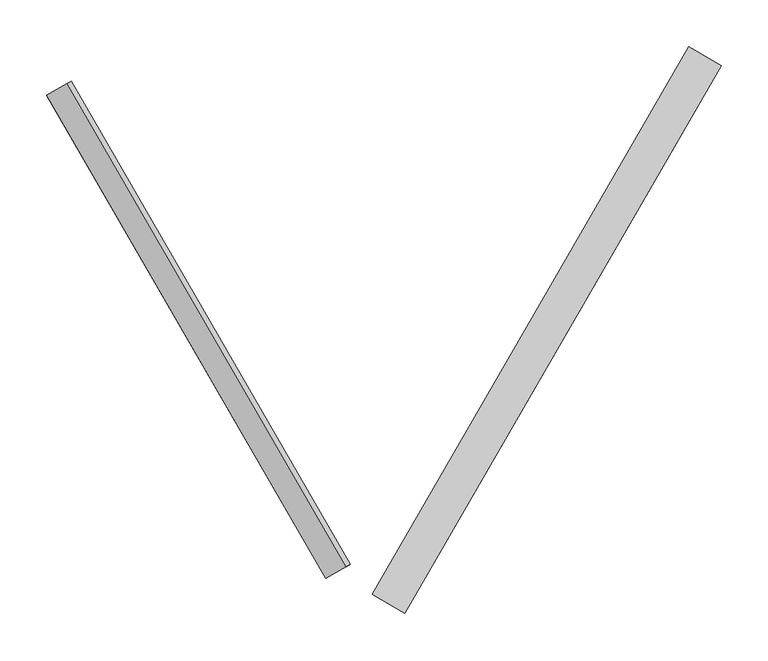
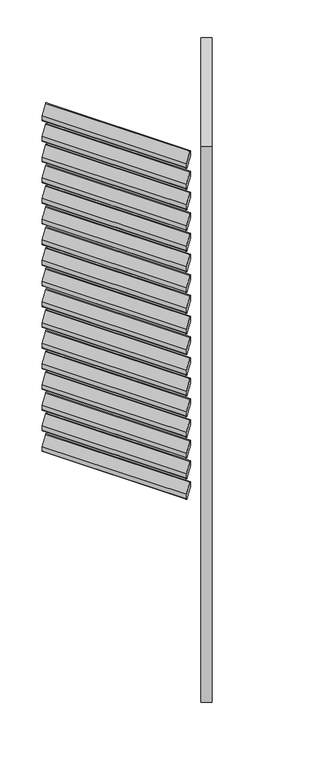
"""IFC4 building model written with IfcOpenShell, lengths in millimetres: proxy geometry, Renson_Amani_Loggia_Paro_Aluminium_Folding : Renson_Amani_Loggia_Paro_Aluminium_Folding."""

from ifc_helpers import new_model, si_unit, point, frame, frame_2d, origin, place, context, project, spatial, polyline, circle_curve, trimmed, segment, composite_curve, outline, extrude, source, transform, mapped, element, save


def generic_models_2752aaec(model_context):
    return source(origin(), model_context, "Body", "SweptSolid", [
        extrude(outline(composite_curve([segment(trimmed(circle_curve(frame_2d((44.0658831, -3.0)), 3.0), [point((44.0658831, 0.0))], [point((45.6998002, -5.5160117))], False, "CARTESIAN"), True, "CONTINUOUS"), segment(polyline([(45.6998002, -5.5160117), (30.3011505, -15.5160117)]), True, "CONTINUOUS"), segment(trimmed(circle_curve(frame_2d((28.6672334, -13.0)), 3.0), [point((30.3011505, -15.5160117))], [point((28.6672334, -16.0))], False, "CARTESIAN"), True, "CONTINUOUS"), segment(polyline([(28.6672334, -16.0), (-15.3986496, -16.0)]), True, "CONTINUOUS"), segment(trimmed(circle_curve(frame_2d((-15.3986496, -13.0)), 3.0), [point((-15.3986496, -16.0))], [point((-17.0325667, -10.4839883))], False, "CARTESIAN"), True, "CONTINUOUS"), segment(polyline([(-17.0325667, -10.4839883), (-0.8886405, 0.0), (44.0658831, 0.0)]), True, "CONTINUOUS")], self_intersect=False)), frame((1165.4546074, 37.7168064, 2397.3359298), z_axis=(0.5000000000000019, 0.8660254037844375, 0.0), x_axis=(-0.4716712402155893, 0.2723195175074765, 0.8386705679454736)), (0.0, 0.0, 1.0), 595.0),
        extrude(outline(composite_curve([segment(trimmed(circle_curve(frame_2d((44.0658831, -3.0)), 3.0), [point((44.0658831, 0.0))], [point((45.6998002, -5.5160117))], False, "CARTESIAN"), True, "CONTINUOUS"), segment(polyline([(45.6998002, -5.5160117), (30.3011505, -15.5160117)]), True, "CONTINUOUS"), segment(trimmed(circle_curve(frame_2d((28.6672334, -13.0)), 3.0), [point((30.3011505, -15.5160117))], [point((28.6672334, -16.0))], False, "CARTESIAN"), True, "CONTINUOUS"), segment(polyline([(28.6672334, -16.0), (-15.3986496, -16.0)]), True, "CONTINUOUS"), segment(trimmed(circle_curve(frame_2d((-15.3986496, -13.0)), 3.0), [point((-15.3986496, -16.0))], [point((-17.0325667, -10.4839883))], False, "CARTESIAN"), True, "CONTINUOUS"), segment(polyline([(-17.0325667, -10.4839883), (-0.8886405, 0.0), (44.0658831, 0.0)]), True, "CONTINUOUS")], self_intersect=False)), frame((1165.4546074, 37.7168064, 2307.3359298), z_axis=(0.5000000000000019, 0.8660254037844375, 0.0), x_axis=(-0.4716712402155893, 0.2723195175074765, 0.8386705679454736)), (0.0, 0.0, 1.0), 595.0),
        extrude(outline(composite_curve([segment(trimmed(circle_curve(frame_2d((44.0658831, -3.0)), 3.0), [point((44.0658831, 0.0))], [point((45.6998002, -5.5160117))], False, "CARTESIAN"), True, "CONTINUOUS"), segment(polyline([(45.6998002, -5.5160117), (30.3011505, -15.5160117)]), True, "CONTINUOUS"), segment(trimmed(circle_curve(frame_2d((28.6672334, -13.0)), 3.0), [point((30.3011505, -15.5160117))], [point((28.6672334, -16.0))], False, "CARTESIAN"), True, "CONTINUOUS"), segment(polyline([(28.6672334, -16.0), (-15.3986496, -16.0)]), True, "CONTINUOUS"), segment(trimmed(circle_curve(frame_2d((-15.3986496, -13.0)), 3.0), [point((-15.3986496, -16.0))], [point((-17.0325667, -10.4839883))], False, "CARTESIAN"), True, "CONTINUOUS"), segment(polyline([(-17.0325667, -10.4839883), (-0.8886405, 0.0), (44.0658831, 0.0)]), True, "CONTINUOUS")], self_intersect=False)), frame((1165.4546074, 37.7168064, 2217.3359298), z_axis=(0.5000000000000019, 0.8660254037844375, 0.0), x_axis=(-0.4716712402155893, 0.2723195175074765, 0.8386705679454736)), (0.0, 0.0, 1.0), 595.0),
        extrude(outline(composite_curve([segment(trimmed(circle_curve(frame_2d((44.0658831, -3.0)), 3.0), [point((44.0658831, 0.0))], [point((45.6998002, -5.5160117))], False, "CARTESIAN"), True, "CONTINUOUS"), segment(polyline([(45.6998002, -5.5160117), (30.3011505, -15.5160117)]), True, "CONTINUOUS"), segment(trimmed(circle_curve(frame_2d((28.6672334, -13.0)), 3.0), [point((30.3011505, -15.5160117))], [point((28.6672334, -16.0))], False, "CARTESIAN"), True, "CONTINUOUS"), segment(polyline([(28.6672334, -16.0), (-15.3986496, -16.0)]), True, "CONTINUOUS"), segment(trimmed(circle_curve(frame_2d((-15.3986496, -13.0)), 3.0), [point((-15.3986496, -16.0))], [point((-17.0325667, -10.4839883))], False, "CARTESIAN"), True, "CONTINUOUS"), segment(polyline([(-17.0325667, -10.4839883), (-0.8886405, 0.0), (44.0658831, 0.0)]), True, "CONTINUOUS")], self_intersect=False)), frame((1165.4546074, 37.7168064, 2127.3359298), z_axis=(0.5000000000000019, 0.8660254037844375, 0.0), x_axis=(-0.4716712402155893, 0.2723195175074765, 0.8386705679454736)), (0.0, 0.0, 1.0), 595.0),
        extrude(outline(composite_curve([segment(trimmed(circle_curve(frame_2d((44.0658831, -3.0)), 3.0), [point((44.0658831, 0.0))], [point((45.6998002, -5.5160117))], False, "CARTESIAN"), True, "CONTINUOUS"), segment(polyline([(45.6998002, -5.5160117), (30.3011505, -15.5160117)]), True, "CONTINUOUS"), segment(trimmed(circle_curve(frame_2d((28.6672334, -13.0)), 3.0), [point((30.3011505, -15.5160117))], [point((28.6672334, -16.0))], False, "CARTESIAN"), True, "CONTINUOUS"), segment(polyline([(28.6672334, -16.0), (-15.3986496, -16.0)]), True, "CONTINUOUS"), segment(trimmed(circle_curve(frame_2d((-15.3986496, -13.0)), 3.0), [point((-15.3986496, -16.0))], [point((-17.0325667, -10.4839883))], False, "CARTESIAN"), True, "CONTINUOUS"), segment(polyline([(-17.0325667, -10.4839883), (-0.8886405, 0.0), (44.0658831, 0.0)]), True, "CONTINUOUS")], self_intersect=False)), frame((1165.4546074, 37.7168064, 2037.3359298), z_axis=(0.5000000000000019, 0.8660254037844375, 0.0), x_axis=(-0.4716712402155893, 0.2723195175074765, 0.8386705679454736)), (0.0, 0.0, 1.0), 595.0),
        extrude(outline(composite_curve([segment(trimmed(circle_curve(frame_2d((44.0658831, -3.0)), 3.0), [point((44.0658831, 0.0))], [point((45.6998002, -5.5160117))], False, "CARTESIAN"), True, "CONTINUOUS"), segment(polyline([(45.6998002, -5.5160117), (30.3011505, -15.5160117)]), True, "CONTINUOUS"), segment(trimmed(circle_curve(frame_2d((28.6672334, -13.0)), 3.0), [point((30.3011505, -15.5160117))], [point((28.6672334, -16.0))], False, "CARTESIAN"), True, "CONTINUOUS"), segment(polyline([(28.6672334, -16.0), (-15.3986496, -16.0)]), True, "CONTINUOUS"), segment(trimmed(circle_curve(frame_2d((-15.3986496, -13.0)), 3.0), [point((-15.3986496, -16.0))], [point((-17.0325667, -10.4839883))], False, "CARTESIAN"), True, "CONTINUOUS"), segment(polyline([(-17.0325667, -10.4839883), (-0.8886405, 0.0), (44.0658831, 0.0)]), True, "CONTINUOUS")], self_intersect=False)), frame((1165.4546074, 37.7168064, 1947.3359298), z_axis=(0.5000000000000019, 0.8660254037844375, 0.0), x_axis=(-0.4716712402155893, 0.2723195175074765, 0.8386705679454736)), (0.0, 0.0, 1.0), 595.0),
        extrude(outline(composite_curve([segment(trimmed(circle_curve(frame_2d((44.0658831, -3.0)), 3.0), [point((44.0658831, 0.0))], [point((45.6998002, -5.5160117))], False, "CARTESIAN"), True, "CONTINUOUS"), segment(polyline([(45.6998002, -5.5160117), (30.3011505, -15.5160117)]), True, "CONTINUOUS"), segment(trimmed(circle_curve(frame_2d((28.6672334, -13.0)), 3.0), [point((30.3011505, -15.5160117))], [point((28.6672334, -16.0))], False, "CARTESIAN"), True, "CONTINUOUS"), segment(polyline([(28.6672334, -16.0), (-15.3986496, -16.0)]), True, "CONTINUOUS"), segment(trimmed(circle_curve(frame_2d((-15.3986496, -13.0)), 3.0), [point((-15.3986496, -16.0))], [point((-17.0325667, -10.4839883))], False, "CARTESIAN"), True, "CONTINUOUS"), segment(polyline([(-17.0325667, -10.4839883), (-0.8886405, 0.0), (44.0658831, 0.0)]), True, "CONTINUOUS")], self_intersect=False)), frame((1165.4546074, 37.7168064, 1857.3359298), z_axis=(0.5000000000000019, 0.8660254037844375, 0.0), x_axis=(-0.4716712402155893, 0.2723195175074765, 0.8386705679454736)), (0.0, 0.0, 1.0), 595.0),
        extrude(outline(composite_curve([segment(trimmed(circle_curve(frame_2d((44.0658831, -3.0)), 3.0), [point((44.0658831, 0.0))], [point((45.6998002, -5.5160117))], False, "CARTESIAN"), True, "CONTINUOUS"), segment(polyline([(45.6998002, -5.5160117), (30.3011505, -15.5160117)]), True, "CONTINUOUS"), segment(trimmed(circle_curve(frame_2d((28.6672334, -13.0)), 3.0), [point((30.3011505, -15.5160117))], [point((28.6672334, -16.0))], False, "CARTESIAN"), True, "CONTINUOUS"), segment(polyline([(28.6672334, -16.0), (-15.3986496, -16.0)]), True, "CONTINUOUS"), segment(trimmed(circle_curve(frame_2d((-15.3986496, -13.0)), 3.0), [point((-15.3986496, -16.0))], [point((-17.0325667, -10.4839883))], False, "CARTESIAN"), True, "CONTINUOUS"), segment(polyline([(-17.0325667, -10.4839883), (-0.8886405, 0.0), (44.0658831, 0.0)]), True, "CONTINUOUS")], self_intersect=False)), frame((1165.4546074, 37.7168064, 1767.3359298), z_axis=(0.5000000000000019, 0.8660254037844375, 0.0), x_axis=(-0.4716712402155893, 0.2723195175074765, 0.8386705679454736)), (0.0, 0.0, 1.0), 595.0),
        extrude(outline(composite_curve([segment(trimmed(circle_curve(frame_2d((44.0658831, -3.0)), 3.0), [point((44.0658831, 0.0))], [point((45.6998002, -5.5160117))], False, "CARTESIAN"), True, "CONTINUOUS"), segment(polyline([(45.6998002, -5.5160117), (30.3011505, -15.5160117)]), True, "CONTINUOUS"), segment(trimmed(circle_curve(frame_2d((28.6672334, -13.0)), 3.0), [point((30.3011505, -15.5160117))], [point((28.6672334, -16.0))], False, "CARTESIAN"), True, "CONTINUOUS"), segment(polyline([(28.6672334, -16.0), (-15.3986496, -16.0)]), True, "CONTINUOUS"), segment(trimmed(circle_curve(frame_2d((-15.3986496, -13.0)), 3.0), [point((-15.3986496, -16.0))], [point((-17.0325667, -10.4839883))], False, "CARTESIAN"), True, "CONTINUOUS"), segment(polyline([(-17.0325667, -10.4839883), (-0.8886405, 0.0), (44.0658831, 0.0)]), True, "CONTINUOUS")], self_intersect=False)), frame((1165.4546074, 37.7168064, 1677.3359298), z_axis=(0.5000000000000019, 0.8660254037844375, 0.0), x_axis=(-0.4716712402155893, 0.2723195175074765, 0.8386705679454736)), (0.0, 0.0, 1.0), 595.0),
        extrude(outline(composite_curve([segment(trimmed(circle_curve(frame_2d((44.0658831, -3.0)), 3.0), [point((44.0658831, 0.0))], [point((45.6998002, -5.5160117))], False, "CARTESIAN"), True, "CONTINUOUS"), segment(polyline([(45.6998002, -5.5160117), (30.3011505, -15.5160117)]), True, "CONTINUOUS"), segment(trimmed(circle_curve(frame_2d((28.6672334, -13.0)), 3.0), [point((30.3011505, -15.5160117))], [point((28.6672334, -16.0))], False, "CARTESIAN"), True, "CONTINUOUS"), segment(polyline([(28.6672334, -16.0), (-15.3986496, -16.0)]), True, "CONTINUOUS"), segment(trimmed(circle_curve(frame_2d((-15.3986496, -13.0)), 3.0), [point((-15.3986496, -16.0))], [point((-17.0325667, -10.4839883))], False, "CARTESIAN"), True, "CONTINUOUS"), segment(polyline([(-17.0325667, -10.4839883), (-0.8886405, 0.0), (44.0658831, 0.0)]), True, "CONTINUOUS")], self_intersect=False)), frame((1165.4546074, 37.7168064, 1587.3359298), z_axis=(0.5000000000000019, 0.8660254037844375, 0.0), x_axis=(-0.4716712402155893, 0.2723195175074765, 0.8386705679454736)), (0.0, 0.0, 1.0), 595.0),
        extrude(outline(composite_curve([segment(trimmed(circle_curve(frame_2d((44.0658831, -3.0)), 3.0), [point((44.0658831, 0.0))], [point((45.6998002, -5.5160117))], False, "CARTESIAN"), True, "CONTINUOUS"), segment(polyline([(45.6998002, -5.5160117), (30.3011505, -15.5160117)]), True, "CONTINUOUS"), segment(trimmed(circle_curve(frame_2d((28.6672334, -13.0)), 3.0), [point((30.3011505, -15.5160117))], [point((28.6672334, -16.0))], False, "CARTESIAN"), True, "CONTINUOUS"), segment(polyline([(28.6672334, -16.0), (-15.3986496, -16.0)]), True, "CONTINUOUS"), segment(trimmed(circle_curve(frame_2d((-15.3986496, -13.0)), 3.0), [point((-15.3986496, -16.0))], [point((-17.0325667, -10.4839883))], False, "CARTESIAN"), True, "CONTINUOUS"), segment(polyline([(-17.0325667, -10.4839883), (-0.8886405, 0.0), (44.0658831, 0.0)]), True, "CONTINUOUS")], self_intersect=False)), frame((1165.4546074, 37.7168064, 1497.3359298), z_axis=(0.5000000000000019, 0.8660254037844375, 0.0), x_axis=(-0.4716712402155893, 0.2723195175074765, 0.8386705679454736)), (0.0, 0.0, 1.0), 595.0),
        extrude(outline(composite_curve([segment(trimmed(circle_curve(frame_2d((44.0658831, -3.0)), 3.0), [point((44.0658831, 0.0))], [point((45.6998002, -5.5160117))], False, "CARTESIAN"), True, "CONTINUOUS"), segment(polyline([(45.6998002, -5.5160117), (30.3011505, -15.5160117)]), True, "CONTINUOUS"), segment(trimmed(circle_curve(frame_2d((28.6672334, -13.0)), 3.0), [point((30.3011505, -15.5160117))], [point((28.6672334, -16.0))], False, "CARTESIAN"), True, "CONTINUOUS"), segment(polyline([(28.6672334, -16.0), (-15.3986496, -16.0)]), True, "CONTINUOUS"), segment(trimmed(circle_curve(frame_2d((-15.3986496, -13.0)), 3.0), [point((-15.3986496, -16.0))], [point((-17.0325667, -10.4839883))], False, "CARTESIAN"), True, "CONTINUOUS"), segment(polyline([(-17.0325667, -10.4839883), (-0.8886405, 0.0), (44.0658831, 0.0)]), True, "CONTINUOUS")], self_intersect=False)), frame((1165.4546074, 37.7168064, 1407.3359298), z_axis=(0.5000000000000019, 0.8660254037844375, 0.0), x_axis=(-0.4716712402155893, 0.2723195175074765, 0.8386705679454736)), (0.0, 0.0, 1.0), 595.0),
        extrude(outline(composite_curve([segment(trimmed(circle_curve(frame_2d((44.0658831, -3.0)), 3.0), [point((44.0658831, 0.0))], [point((45.6998002, -5.5160117))], False, "CARTESIAN"), True, "CONTINUOUS"), segment(polyline([(45.6998002, -5.5160117), (30.3011505, -15.5160117)]), True, "CONTINUOUS"), segment(trimmed(circle_curve(frame_2d((28.6672334, -13.0)), 3.0), [point((30.3011505, -15.5160117))], [point((28.6672334, -16.0))], False, "CARTESIAN"), True, "CONTINUOUS"), segment(polyline([(28.6672334, -16.0), (-15.3986496, -16.0)]), True, "CONTINUOUS"), segment(trimmed(circle_curve(frame_2d((-15.3986496, -13.0)), 3.0), [point((-15.3986496, -16.0))], [point((-17.0325667, -10.4839883))], False, "CARTESIAN"), True, "CONTINUOUS"), segment(polyline([(-17.0325667, -10.4839883), (-0.8886405, 0.0), (44.0658831, 0.0)]), True, "CONTINUOUS")], self_intersect=False)), frame((1165.4546074, 37.7168064, 1317.3359298), z_axis=(0.5000000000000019, 0.8660254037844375, 0.0), x_axis=(-0.4716712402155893, 0.2723195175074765, 0.8386705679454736)), (0.0, 0.0, 1.0), 595.0),
        extrude(outline(composite_curve([segment(trimmed(circle_curve(frame_2d((44.0658831, -3.0)), 3.0), [point((44.0658831, 0.0))], [point((45.6998002, -5.5160117))], False, "CARTESIAN"), True, "CONTINUOUS"), segment(polyline([(45.6998002, -5.5160117), (30.3011505, -15.5160117)]), True, "CONTINUOUS"), segment(trimmed(circle_curve(frame_2d((28.6672334, -13.0)), 3.0), [point((30.3011505, -15.5160117))], [point((28.6672334, -16.0))], False, "CARTESIAN"), True, "CONTINUOUS"), segment(polyline([(28.6672334, -16.0), (-15.3986496, -16.0)]), True, "CONTINUOUS"), segment(trimmed(circle_curve(frame_2d((-15.3986496, -13.0)), 3.0), [point((-15.3986496, -16.0))], [point((-17.0325667, -10.4839883))], False, "CARTESIAN"), True, "CONTINUOUS"), segment(polyline([(-17.0325667, -10.4839883), (-0.8886405, 0.0), (44.0658831, 0.0)]), True, "CONTINUOUS")], self_intersect=False)), frame((1165.4546074, 37.7168064, 1227.3359298), z_axis=(0.5000000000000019, 0.8660254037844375, 0.0), x_axis=(-0.4716712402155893, 0.2723195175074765, 0.8386705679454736)), (0.0, 0.0, 1.0), 595.0),
        extrude(outline(composite_curve([segment(trimmed(circle_curve(frame_2d((44.0658831, -3.0)), 3.0), [point((44.0658831, 0.0))], [point((45.6998002, -5.5160117))], False, "CARTESIAN"), True, "CONTINUOUS"), segment(polyline([(45.6998002, -5.5160117), (30.3011505, -15.5160117)]), True, "CONTINUOUS"), segment(trimmed(circle_curve(frame_2d((28.6672334, -13.0)), 3.0), [point((30.3011505, -15.5160117))], [point((28.6672334, -16.0))], False, "CARTESIAN"), True, "CONTINUOUS"), segment(polyline([(28.6672334, -16.0), (-15.3986496, -16.0)]), True, "CONTINUOUS"), segment(trimmed(circle_curve(frame_2d((-15.3986496, -13.0)), 3.0), [point((-15.3986496, -16.0))], [point((-17.0325667, -10.4839883))], False, "CARTESIAN"), True, "CONTINUOUS"), segment(polyline([(-17.0325667, -10.4839883), (-0.8886405, 0.0), (44.0658831, 0.0)]), True, "CONTINUOUS")], self_intersect=False)), frame((1165.4546074, 37.7168064, 1137.3359298), z_axis=(0.5000000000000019, 0.8660254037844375, 0.0), x_axis=(-0.4716712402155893, 0.2723195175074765, 0.8386705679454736)), (0.0, 0.0, 1.0), 595.0),
        extrude(outline(composite_curve([segment(trimmed(circle_curve(frame_2d((44.0658831, -3.0)), 3.0), [point((44.0658831, 0.0))], [point((45.6998002, -5.5160117))], False, "CARTESIAN"), True, "CONTINUOUS"), segment(polyline([(45.6998002, -5.5160117), (30.3011505, -15.5160117)]), True, "CONTINUOUS"), segment(trimmed(circle_curve(frame_2d((28.6672334, -13.0)), 3.0), [point((30.3011505, -15.5160117))], [point((28.6672334, -16.0))], False, "CARTESIAN"), True, "CONTINUOUS"), segment(polyline([(28.6672334, -16.0), (-15.3986496, -16.0)]), True, "CONTINUOUS"), segment(trimmed(circle_curve(frame_2d((-15.3986496, -13.0)), 3.0), [point((-15.3986496, -16.0))], [point((-17.0325667, -10.4839883))], False, "CARTESIAN"), True, "CONTINUOUS"), segment(polyline([(-17.0325667, -10.4839883), (-0.8886405, 0.0), (44.0658831, 0.0)]), True, "CONTINUOUS")], self_intersect=False)), frame((1165.4546074, 37.7168064, 1047.3359298), z_axis=(0.5000000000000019, 0.8660254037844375, 0.0), x_axis=(-0.4716712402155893, 0.2723195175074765, 0.8386705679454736)), (0.0, 0.0, 1.0), 595.0),
        extrude(outline(composite_curve([segment(trimmed(circle_curve(frame_2d((44.0658831, -3.0)), 3.0), [point((44.0658831, 0.0))], [point((45.6998002, -5.5160117))], False, "CARTESIAN"), True, "CONTINUOUS"), segment(polyline([(45.6998002, -5.5160117), (30.3011505, -15.5160117)]), True, "CONTINUOUS"), segment(trimmed(circle_curve(frame_2d((28.6672334, -13.0)), 3.0), [point((30.3011505, -15.5160117))], [point((28.6672334, -16.0))], False, "CARTESIAN"), True, "CONTINUOUS"), segment(polyline([(28.6672334, -16.0), (-15.3986496, -16.0)]), True, "CONTINUOUS"), segment(trimmed(circle_curve(frame_2d((-15.3986496, -13.0)), 3.0), [point((-15.3986496, -16.0))], [point((-17.0325667, -10.4839883))], False, "CARTESIAN"), True, "CONTINUOUS"), segment(polyline([(-17.0325667, -10.4839883), (-0.8886405, 0.0), (44.0658831, 0.0)]), True, "CONTINUOUS")], self_intersect=False)), frame((1165.4546074, 37.7168064, 957.3359298), z_axis=(0.5000000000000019, 0.8660254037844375, 0.0), x_axis=(-0.4716712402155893, 0.2723195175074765, 0.8386705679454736)), (0.0, 0.0, 1.0), 595.0),
        extrude(outline(composite_curve([segment(trimmed(circle_curve(frame_2d((44.0658831, -3.0)), 3.0), [point((44.0658831, 0.0))], [point((45.6998002, -5.5160117))], False, "CARTESIAN"), True, "CONTINUOUS"), segment(polyline([(45.6998002, -5.5160117), (30.3011505, -15.5160117)]), True, "CONTINUOUS"), segment(trimmed(circle_curve(frame_2d((28.6672334, -13.0)), 3.0), [point((30.3011505, -15.5160117))], [point((28.6672334, -16.0))], False, "CARTESIAN"), True, "CONTINUOUS"), segment(polyline([(28.6672334, -16.0), (-15.3986496, -16.0)]), True, "CONTINUOUS"), segment(trimmed(circle_curve(frame_2d((-15.3986496, -13.0)), 3.0), [point((-15.3986496, -16.0))], [point((-17.0325667, -10.4839883))], False, "CARTESIAN"), True, "CONTINUOUS"), segment(polyline([(-17.0325667, -10.4839883), (-0.8886405, 0.0), (44.0658831, 0.0)]), True, "CONTINUOUS")], self_intersect=False)), frame((1165.4546074, 37.7168064, 867.3359298), z_axis=(0.5000000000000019, 0.8660254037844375, 0.0), x_axis=(-0.4716712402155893, 0.2723195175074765, 0.8386705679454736)), (0.0, 0.0, 1.0), 595.0),
        extrude(outline(composite_curve([segment(trimmed(circle_curve(frame_2d((44.0658831, -3.0)), 3.0), [point((44.0658831, 0.0))], [point((45.6998002, -5.5160117))], False, "CARTESIAN"), True, "CONTINUOUS"), segment(polyline([(45.6998002, -5.5160117), (30.3011505, -15.5160117)]), True, "CONTINUOUS"), segment(trimmed(circle_curve(frame_2d((28.6672334, -13.0)), 3.0), [point((30.3011505, -15.5160117))], [point((28.6672334, -16.0))], False, "CARTESIAN"), True, "CONTINUOUS"), segment(polyline([(28.6672334, -16.0), (-15.3986496, -16.0)]), True, "CONTINUOUS"), segment(trimmed(circle_curve(frame_2d((-15.3986496, -13.0)), 3.0), [point((-15.3986496, -16.0))], [point((-17.0325667, -10.4839883))], False, "CARTESIAN"), True, "CONTINUOUS"), segment(polyline([(-17.0325667, -10.4839883), (-0.8886405, 0.0), (44.0658831, 0.0)]), True, "CONTINUOUS")], self_intersect=False)), frame((1165.4546074, 37.7168064, 777.3359298), z_axis=(0.5000000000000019, 0.8660254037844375, 0.0), x_axis=(-0.4716712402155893, 0.2723195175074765, 0.8386705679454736)), (0.0, 0.0, 1.0), 595.0),
        extrude(outline(composite_curve([segment(trimmed(circle_curve(frame_2d((44.0658831, -3.0)), 3.0), [point((44.0658831, 0.0))], [point((45.6998002, -5.5160117))], False, "CARTESIAN"), True, "CONTINUOUS"), segment(polyline([(45.6998002, -5.5160117), (30.3011505, -15.5160117)]), True, "CONTINUOUS"), segment(trimmed(circle_curve(frame_2d((28.6672334, -13.0)), 3.0), [point((30.3011505, -15.5160117))], [point((28.6672334, -16.0))], False, "CARTESIAN"), True, "CONTINUOUS"), segment(polyline([(28.6672334, -16.0), (-15.3986496, -16.0)]), True, "CONTINUOUS"), segment(trimmed(circle_curve(frame_2d((-15.3986496, -13.0)), 3.0), [point((-15.3986496, -16.0))], [point((-17.0325667, -10.4839883))], False, "CARTESIAN"), True, "CONTINUOUS"), segment(polyline([(-17.0325667, -10.4839883), (-0.8886405, 0.0), (44.0658831, 0.0)]), True, "CONTINUOUS")], self_intersect=False)), frame((1165.4546074, 37.7168064, 687.3359298), z_axis=(0.5000000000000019, 0.8660254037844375, 0.0), x_axis=(-0.4716712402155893, 0.2723195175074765, 0.8386705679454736)), (0.0, 0.0, 1.0), 595.0),
        extrude(outline(composite_curve([segment(trimmed(circle_curve(frame_2d((44.0658831, -3.0)), 3.0), [point((44.0658831, 0.0))], [point((45.6998002, -5.5160117))], False, "CARTESIAN"), True, "CONTINUOUS"), segment(polyline([(45.6998002, -5.5160117), (30.3011505, -15.5160117)]), True, "CONTINUOUS"), segment(trimmed(circle_curve(frame_2d((28.6672334, -13.0)), 3.0), [point((30.3011505, -15.5160117))], [point((28.6672334, -16.0))], False, "CARTESIAN"), True, "CONTINUOUS"), segment(polyline([(28.6672334, -16.0), (-15.3986496, -16.0)]), True, "CONTINUOUS"), segment(trimmed(circle_curve(frame_2d((-15.3986496, -13.0)), 3.0), [point((-15.3986496, -16.0))], [point((-17.0325667, -10.4839883))], False, "CARTESIAN"), True, "CONTINUOUS"), segment(polyline([(-17.0325667, -10.4839883), (-0.8886405, 0.0), (44.0658831, 0.0)]), True, "CONTINUOUS")], self_intersect=False)), frame((1165.4546074, 37.7168064, 597.3359298), z_axis=(0.5000000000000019, 0.8660254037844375, 0.0), x_axis=(-0.4716712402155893, 0.2723195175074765, 0.8386705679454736)), (0.0, 0.0, 1.0), 595.0),
        extrude(outline(composite_curve([segment(trimmed(circle_curve(frame_2d((44.0658831, -3.0)), 3.0), [point((44.0658831, 0.0))], [point((45.6998002, -5.5160117))], False, "CARTESIAN"), True, "CONTINUOUS"), segment(polyline([(45.6998002, -5.5160117), (30.3011505, -15.5160117)]), True, "CONTINUOUS"), segment(trimmed(circle_curve(frame_2d((28.6672334, -13.0)), 3.0), [point((30.3011505, -15.5160117))], [point((28.6672334, -16.0))], False, "CARTESIAN"), True, "CONTINUOUS"), segment(polyline([(28.6672334, -16.0), (-15.3986496, -16.0)]), True, "CONTINUOUS"), segment(trimmed(circle_curve(frame_2d((-15.3986496, -13.0)), 3.0), [point((-15.3986496, -16.0))], [point((-17.0325667, -10.4839883))], False, "CARTESIAN"), True, "CONTINUOUS"), segment(polyline([(-17.0325667, -10.4839883), (-0.8886405, 0.0), (44.0658831, 0.0)]), True, "CONTINUOUS")], self_intersect=False)), frame((1165.4546074, 37.7168064, 507.3359298), z_axis=(0.5000000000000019, 0.8660254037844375, 0.0), x_axis=(-0.4716712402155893, 0.2723195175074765, 0.8386705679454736)), (0.0, 0.0, 1.0), 595.0),
        extrude(outline(composite_curve([segment(trimmed(circle_curve(frame_2d((44.0658831, -3.0)), 3.0), [point((44.0658831, 0.0))], [point((45.6998002, -5.5160117))], False, "CARTESIAN"), True, "CONTINUOUS"), segment(polyline([(45.6998002, -5.5160117), (30.3011505, -15.5160117)]), True, "CONTINUOUS"), segment(trimmed(circle_curve(frame_2d((28.6672334, -13.0)), 3.0), [point((30.3011505, -15.5160117))], [point((28.6672334, -16.0))], False, "CARTESIAN"), True, "CONTINUOUS"), segment(polyline([(28.6672334, -16.0), (-15.3986496, -16.0)]), True, "CONTINUOUS"), segment(trimmed(circle_curve(frame_2d((-15.3986496, -13.0)), 3.0), [point((-15.3986496, -16.0))], [point((-17.0325667, -10.4839883))], False, "CARTESIAN"), True, "CONTINUOUS"), segment(polyline([(-17.0325667, -10.4839883), (-0.8886405, 0.0), (44.0658831, 0.0)]), True, "CONTINUOUS")], self_intersect=False)), frame((1165.4546074, 37.7168064, 417.3359298), z_axis=(0.5000000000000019, 0.8660254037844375, 0.0), x_axis=(-0.4716712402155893, 0.2723195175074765, 0.8386705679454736)), (0.0, 0.0, 1.0), 595.0),
        extrude(outline(composite_curve([segment(trimmed(circle_curve(frame_2d((44.0658831, -3.0)), 3.0), [point((44.0658831, 0.0))], [point((45.6998002, -5.5160117))], False, "CARTESIAN"), True, "CONTINUOUS"), segment(polyline([(45.6998002, -5.5160117), (30.3011505, -15.5160117)]), True, "CONTINUOUS"), segment(trimmed(circle_curve(frame_2d((28.6672334, -13.0)), 3.0), [point((30.3011505, -15.5160117))], [point((28.6672334, -16.0))], False, "CARTESIAN"), True, "CONTINUOUS"), segment(polyline([(28.6672334, -16.0), (-15.3986496, -16.0)]), True, "CONTINUOUS"), segment(trimmed(circle_curve(frame_2d((-15.3986496, -13.0)), 3.0), [point((-15.3986496, -16.0))], [point((-17.0325667, -10.4839883))], False, "CARTESIAN"), True, "CONTINUOUS"), segment(polyline([(-17.0325667, -10.4839883), (-0.8886405, 0.0), (44.0658831, 0.0)]), True, "CONTINUOUS")], self_intersect=False)), frame((1165.4546074, 37.7168064, 327.3359298), z_axis=(0.5000000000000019, 0.8660254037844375, 0.0), x_axis=(-0.4716712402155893, 0.2723195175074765, 0.8386705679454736)), (0.0, 0.0, 1.0), 595.0),
        extrude(outline(composite_curve([segment(trimmed(circle_curve(frame_2d((44.0658831, -3.0)), 3.0), [point((44.0658831, 0.0))], [point((45.6998002, -5.5160117))], False, "CARTESIAN"), True, "CONTINUOUS"), segment(polyline([(45.6998002, -5.5160117), (30.3011505, -15.5160117)]), True, "CONTINUOUS"), segment(trimmed(circle_curve(frame_2d((28.6672334, -13.0)), 3.0), [point((30.3011505, -15.5160117))], [point((28.6672334, -16.0))], False, "CARTESIAN"), True, "CONTINUOUS"), segment(polyline([(28.6672334, -16.0), (-15.3986496, -16.0)]), True, "CONTINUOUS"), segment(trimmed(circle_curve(frame_2d((-15.3986496, -13.0)), 3.0), [point((-15.3986496, -16.0))], [point((-17.0325667, -10.4839883))], False, "CARTESIAN"), True, "CONTINUOUS"), segment(polyline([(-17.0325667, -10.4839883), (-0.8886405, 0.0), (44.0658831, 0.0)]), True, "CONTINUOUS")], self_intersect=False)), frame((1165.4546074, 37.7168064, 237.3359298), z_axis=(0.5000000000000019, 0.8660254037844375, 0.0), x_axis=(-0.4716712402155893, 0.2723195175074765, 0.8386705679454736)), (0.0, 0.0, 1.0), 595.0),
        extrude(outline(composite_curve([segment(trimmed(circle_curve(frame_2d((44.0658831, -3.0)), 3.0), [point((44.0658831, 0.0))], [point((45.6998002, -5.5160117))], False, "CARTESIAN"), True, "CONTINUOUS"), segment(polyline([(45.6998002, -5.5160117), (30.3011505, -15.5160117)]), True, "CONTINUOUS"), segment(trimmed(circle_curve(frame_2d((28.6672334, -13.0)), 3.0), [point((30.3011505, -15.5160117))], [point((28.6672334, -16.0))], False, "CARTESIAN"), True, "CONTINUOUS"), segment(polyline([(28.6672334, -16.0), (-15.3986496, -16.0)]), True, "CONTINUOUS"), segment(trimmed(circle_curve(frame_2d((-15.3986496, -13.0)), 3.0), [point((-15.3986496, -16.0))], [point((-17.0325667, -10.4839883))], False, "CARTESIAN"), True, "CONTINUOUS"), segment(polyline([(-17.0325667, -10.4839883), (-0.8886405, 0.0), (44.0658831, 0.0)]), True, "CONTINUOUS")], self_intersect=False)), frame((1165.4546074, 37.7168064, 147.3359298), z_axis=(0.5000000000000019, 0.8660254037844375, 0.0), x_axis=(-0.4716712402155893, 0.2723195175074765, 0.8386705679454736)), (0.0, 0.0, 1.0), 595.0),
        extrude(outline(polyline([(2380.0, -40.0), (-40.0, -40.0), (-40.0, 635.0), (2380.0, 635.0), (2380.0, -40.0)]), holes=[polyline([(2340.0, 595.0), (0.0, 595.0), (0.0, 0.0), (2340.0, 0.0), (2340.0, 595.0)])]), frame((1170.7820323, 34.6410162, 85.0), z_axis=(-0.8660254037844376, 0.5000000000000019, 0.0), x_axis=(0.0, 0.0, 1.0)), (0.0, 0.0, 1.0), 40.0),
        extrude(outline(composite_curve([segment(polyline([(-44.0658831, 0.0), (0.8886405, 0.0), (17.0325667, -10.4839883)]), True, "CONTINUOUS"), segment(trimmed(circle_curve(frame_2d((15.3986496, -13.0)), 3.0), [point((17.0325667, -10.4839883))], [point((15.3986496, -16.0))], False, "CARTESIAN"), True, "CONTINUOUS"), segment(polyline([(15.3986496, -16.0), (-28.6672334, -16.0)]), True, "CONTINUOUS"), segment(trimmed(circle_curve(frame_2d((-28.6672334, -13.0)), 3.0), [point((-28.6672334, -16.0))], [point((-30.3011505, -15.5160117))], False, "CARTESIAN"), True, "CONTINUOUS"), segment(polyline([(-30.3011505, -15.5160117), (-45.6998002, -5.5160117)]), True, "CONTINUOUS"), segment(trimmed(circle_curve(frame_2d((-44.0658831, -3.0)), 3.0), [point((-45.6998002, -5.5160117))], [point((-44.0658831, 0.0))], False, "CARTESIAN"), True, "CONTINUOUS")], self_intersect=False)), frame((1067.1094572, 37.7168064, 2397.3359298), z_axis=(-0.5000000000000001, 0.8660254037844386, 0.0), x_axis=(-0.47167124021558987, -0.2723195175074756, -0.8386705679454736)), (0.0, 0.0, 1.0), 595.0),
        extrude(outline(composite_curve([segment(polyline([(-44.0658831, 0.0), (0.8886405, 0.0), (17.0325667, -10.4839883)]), True, "CONTINUOUS"), segment(trimmed(circle_curve(frame_2d((15.3986496, -13.0)), 3.0), [point((17.0325667, -10.4839883))], [point((15.3986496, -16.0))], False, "CARTESIAN"), True, "CONTINUOUS"), segment(polyline([(15.3986496, -16.0), (-28.6672334, -16.0)]), True, "CONTINUOUS"), segment(trimmed(circle_curve(frame_2d((-28.6672334, -13.0)), 3.0), [point((-28.6672334, -16.0))], [point((-30.3011505, -15.5160117))], False, "CARTESIAN"), True, "CONTINUOUS"), segment(polyline([(-30.3011505, -15.5160117), (-45.6998002, -5.5160117)]), True, "CONTINUOUS"), segment(trimmed(circle_curve(frame_2d((-44.0658831, -3.0)), 3.0), [point((-45.6998002, -5.5160117))], [point((-44.0658831, 0.0))], False, "CARTESIAN"), True, "CONTINUOUS")], self_intersect=False)), frame((1067.1094572, 37.7168064, 2307.3359298), z_axis=(-0.5000000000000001, 0.8660254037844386, 0.0), x_axis=(-0.47167124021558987, -0.2723195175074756, -0.8386705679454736)), (0.0, 0.0, 1.0), 595.0),
        extrude(outline(composite_curve([segment(polyline([(-44.0658831, 0.0), (0.8886405, 0.0), (17.0325667, -10.4839883)]), True, "CONTINUOUS"), segment(trimmed(circle_curve(frame_2d((15.3986496, -13.0)), 3.0), [point((17.0325667, -10.4839883))], [point((15.3986496, -16.0))], False, "CARTESIAN"), True, "CONTINUOUS"), segment(polyline([(15.3986496, -16.0), (-28.6672334, -16.0)]), True, "CONTINUOUS"), segment(trimmed(circle_curve(frame_2d((-28.6672334, -13.0)), 3.0), [point((-28.6672334, -16.0))], [point((-30.3011505, -15.5160117))], False, "CARTESIAN"), True, "CONTINUOUS"), segment(polyline([(-30.3011505, -15.5160117), (-45.6998002, -5.5160117)]), True, "CONTINUOUS"), segment(trimmed(circle_curve(frame_2d((-44.0658831, -3.0)), 3.0), [point((-45.6998002, -5.5160117))], [point((-44.0658831, 0.0))], False, "CARTESIAN"), True, "CONTINUOUS")], self_intersect=False)), frame((1067.1094572, 37.7168064, 2217.3359298), z_axis=(-0.5000000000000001, 0.8660254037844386, 0.0), x_axis=(-0.47167124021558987, -0.2723195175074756, -0.8386705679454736)), (0.0, 0.0, 1.0), 595.0),
        extrude(outline(composite_curve([segment(polyline([(-44.0658831, 0.0), (0.8886405, 0.0), (17.0325667, -10.4839883)]), True, "CONTINUOUS"), segment(trimmed(circle_curve(frame_2d((15.3986496, -13.0)), 3.0), [point((17.0325667, -10.4839883))], [point((15.3986496, -16.0))], False, "CARTESIAN"), True, "CONTINUOUS"), segment(polyline([(15.3986496, -16.0), (-28.6672334, -16.0)]), True, "CONTINUOUS"), segment(trimmed(circle_curve(frame_2d((-28.6672334, -13.0)), 3.0), [point((-28.6672334, -16.0))], [point((-30.3011505, -15.5160117))], False, "CARTESIAN"), True, "CONTINUOUS"), segment(polyline([(-30.3011505, -15.5160117), (-45.6998002, -5.5160117)]), True, "CONTINUOUS"), segment(trimmed(circle_curve(frame_2d((-44.0658831, -3.0)), 3.0), [point((-45.6998002, -5.5160117))], [point((-44.0658831, 0.0))], False, "CARTESIAN"), True, "CONTINUOUS")], self_intersect=False)), frame((1067.1094572, 37.7168064, 2127.3359298), z_axis=(-0.5000000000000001, 0.8660254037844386, 0.0), x_axis=(-0.47167124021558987, -0.2723195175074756, -0.8386705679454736)), (0.0, 0.0, 1.0), 595.0),
        extrude(outline(composite_curve([segment(polyline([(-44.0658831, 0.0), (0.8886405, 0.0), (17.0325667, -10.4839883)]), True, "CONTINUOUS"), segment(trimmed(circle_curve(frame_2d((15.3986496, -13.0)), 3.0), [point((17.0325667, -10.4839883))], [point((15.3986496, -16.0))], False, "CARTESIAN"), True, "CONTINUOUS"), segment(polyline([(15.3986496, -16.0), (-28.6672334, -16.0)]), True, "CONTINUOUS"), segment(trimmed(circle_curve(frame_2d((-28.6672334, -13.0)), 3.0), [point((-28.6672334, -16.0))], [point((-30.3011505, -15.5160117))], False, "CARTESIAN"), True, "CONTINUOUS"), segment(polyline([(-30.3011505, -15.5160117), (-45.6998002, -5.5160117)]), True, "CONTINUOUS"), segment(trimmed(circle_curve(frame_2d((-44.0658831, -3.0)), 3.0), [point((-45.6998002, -5.5160117))], [point((-44.0658831, 0.0))], False, "CARTESIAN"), True, "CONTINUOUS")], self_intersect=False)), frame((1067.1094572, 37.7168064, 2037.3359298), z_axis=(-0.5000000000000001, 0.8660254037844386, 0.0), x_axis=(-0.47167124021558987, -0.2723195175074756, -0.8386705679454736)), (0.0, 0.0, 1.0), 595.0),
        extrude(outline(composite_curve([segment(polyline([(-44.0658831, 0.0), (0.8886405, 0.0), (17.0325667, -10.4839883)]), True, "CONTINUOUS"), segment(trimmed(circle_curve(frame_2d((15.3986496, -13.0)), 3.0), [point((17.0325667, -10.4839883))], [point((15.3986496, -16.0))], False, "CARTESIAN"), True, "CONTINUOUS"), segment(polyline([(15.3986496, -16.0), (-28.6672334, -16.0)]), True, "CONTINUOUS"), segment(trimmed(circle_curve(frame_2d((-28.6672334, -13.0)), 3.0), [point((-28.6672334, -16.0))], [point((-30.3011505, -15.5160117))], False, "CARTESIAN"), True, "CONTINUOUS"), segment(polyline([(-30.3011505, -15.5160117), (-45.6998002, -5.5160117)]), True, "CONTINUOUS"), segment(trimmed(circle_curve(frame_2d((-44.0658831, -3.0)), 3.0), [point((-45.6998002, -5.5160117))], [point((-44.0658831, 0.0))], False, "CARTESIAN"), True, "CONTINUOUS")], self_intersect=False)), frame((1067.1094572, 37.7168064, 1947.3359298), z_axis=(-0.5000000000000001, 0.8660254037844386, 0.0), x_axis=(-0.47167124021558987, -0.2723195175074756, -0.8386705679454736)), (0.0, 0.0, 1.0), 595.0),
        extrude(outline(composite_curve([segment(polyline([(-44.0658831, 0.0), (0.8886405, 0.0), (17.0325667, -10.4839883)]), True, "CONTINUOUS"), segment(trimmed(circle_curve(frame_2d((15.3986496, -13.0)), 3.0), [point((17.0325667, -10.4839883))], [point((15.3986496, -16.0))], False, "CARTESIAN"), True, "CONTINUOUS"), segment(polyline([(15.3986496, -16.0), (-28.6672334, -16.0)]), True, "CONTINUOUS"), segment(trimmed(circle_curve(frame_2d((-28.6672334, -13.0)), 3.0), [point((-28.6672334, -16.0))], [point((-30.3011505, -15.5160117))], False, "CARTESIAN"), True, "CONTINUOUS"), segment(polyline([(-30.3011505, -15.5160117), (-45.6998002, -5.5160117)]), True, "CONTINUOUS"), segment(trimmed(circle_curve(frame_2d((-44.0658831, -3.0)), 3.0), [point((-45.6998002, -5.5160117))], [point((-44.0658831, 0.0))], False, "CARTESIAN"), True, "CONTINUOUS")], self_intersect=False)), frame((1067.1094572, 37.7168064, 1857.3359298), z_axis=(-0.5000000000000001, 0.8660254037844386, 0.0), x_axis=(-0.47167124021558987, -0.2723195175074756, -0.8386705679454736)), (0.0, 0.0, 1.0), 595.0),
        extrude(outline(composite_curve([segment(polyline([(-44.0658831, 0.0), (0.8886405, 0.0), (17.0325667, -10.4839883)]), True, "CONTINUOUS"), segment(trimmed(circle_curve(frame_2d((15.3986496, -13.0)), 3.0), [point((17.0325667, -10.4839883))], [point((15.3986496, -16.0))], False, "CARTESIAN"), True, "CONTINUOUS"), segment(polyline([(15.3986496, -16.0), (-28.6672334, -16.0)]), True, "CONTINUOUS"), segment(trimmed(circle_curve(frame_2d((-28.6672334, -13.0)), 3.0), [point((-28.6672334, -16.0))], [point((-30.3011505, -15.5160117))], False, "CARTESIAN"), True, "CONTINUOUS"), segment(polyline([(-30.3011505, -15.5160117), (-45.6998002, -5.5160117)]), True, "CONTINUOUS"), segment(trimmed(circle_curve(frame_2d((-44.0658831, -3.0)), 3.0), [point((-45.6998002, -5.5160117))], [point((-44.0658831, 0.0))], False, "CARTESIAN"), True, "CONTINUOUS")], self_intersect=False)), frame((1067.1094572, 37.7168064, 1767.3359298), z_axis=(-0.5000000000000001, 0.8660254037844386, 0.0), x_axis=(-0.47167124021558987, -0.2723195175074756, -0.8386705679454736)), (0.0, 0.0, 1.0), 595.0),
        extrude(outline(composite_curve([segment(polyline([(-44.0658831, 0.0), (0.8886405, 0.0), (17.0325667, -10.4839883)]), True, "CONTINUOUS"), segment(trimmed(circle_curve(frame_2d((15.3986496, -13.0)), 3.0), [point((17.0325667, -10.4839883))], [point((15.3986496, -16.0))], False, "CARTESIAN"), True, "CONTINUOUS"), segment(polyline([(15.3986496, -16.0), (-28.6672334, -16.0)]), True, "CONTINUOUS"), segment(trimmed(circle_curve(frame_2d((-28.6672334, -13.0)), 3.0), [point((-28.6672334, -16.0))], [point((-30.3011505, -15.5160117))], False, "CARTESIAN"), True, "CONTINUOUS"), segment(polyline([(-30.3011505, -15.5160117), (-45.6998002, -5.5160117)]), True, "CONTINUOUS"), segment(trimmed(circle_curve(frame_2d((-44.0658831, -3.0)), 3.0), [point((-45.6998002, -5.5160117))], [point((-44.0658831, 0.0))], False, "CARTESIAN"), True, "CONTINUOUS")], self_intersect=False)), frame((1067.1094572, 37.7168064, 1677.3359298), z_axis=(-0.5000000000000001, 0.8660254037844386, 0.0), x_axis=(-0.47167124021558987, -0.2723195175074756, -0.8386705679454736)), (0.0, 0.0, 1.0), 595.0),
        extrude(outline(composite_curve([segment(polyline([(-44.0658831, 0.0), (0.8886405, 0.0), (17.0325667, -10.4839883)]), True, "CONTINUOUS"), segment(trimmed(circle_curve(frame_2d((15.3986496, -13.0)), 3.0), [point((17.0325667, -10.4839883))], [point((15.3986496, -16.0))], False, "CARTESIAN"), True, "CONTINUOUS"), segment(polyline([(15.3986496, -16.0), (-28.6672334, -16.0)]), True, "CONTINUOUS"), segment(trimmed(circle_curve(frame_2d((-28.6672334, -13.0)), 3.0), [point((-28.6672334, -16.0))], [point((-30.3011505, -15.5160117))], False, "CARTESIAN"), True, "CONTINUOUS"), segment(polyline([(-30.3011505, -15.5160117), (-45.6998002, -5.5160117)]), True, "CONTINUOUS"), segment(trimmed(circle_curve(frame_2d((-44.0658831, -3.0)), 3.0), [point((-45.6998002, -5.5160117))], [point((-44.0658831, 0.0))], False, "CARTESIAN"), True, "CONTINUOUS")], self_intersect=False)), frame((1067.1094572, 37.7168064, 1587.3359298), z_axis=(-0.5000000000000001, 0.8660254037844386, 0.0), x_axis=(-0.47167124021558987, -0.2723195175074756, -0.8386705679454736)), (0.0, 0.0, 1.0), 595.0),
        extrude(outline(composite_curve([segment(polyline([(-44.0658831, 0.0), (0.8886405, 0.0), (17.0325667, -10.4839883)]), True, "CONTINUOUS"), segment(trimmed(circle_curve(frame_2d((15.3986496, -13.0)), 3.0), [point((17.0325667, -10.4839883))], [point((15.3986496, -16.0))], False, "CARTESIAN"), True, "CONTINUOUS"), segment(polyline([(15.3986496, -16.0), (-28.6672334, -16.0)]), True, "CONTINUOUS"), segment(trimmed(circle_curve(frame_2d((-28.6672334, -13.0)), 3.0), [point((-28.6672334, -16.0))], [point((-30.3011505, -15.5160117))], False, "CARTESIAN"), True, "CONTINUOUS"), segment(polyline([(-30.3011505, -15.5160117), (-45.6998002, -5.5160117)]), True, "CONTINUOUS"), segment(trimmed(circle_curve(frame_2d((-44.0658831, -3.0)), 3.0), [point((-45.6998002, -5.5160117))], [point((-44.0658831, 0.0))], False, "CARTESIAN"), True, "CONTINUOUS")], self_intersect=False)), frame((1067.1094572, 37.7168064, 1497.3359298), z_axis=(-0.5000000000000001, 0.8660254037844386, 0.0), x_axis=(-0.47167124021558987, -0.2723195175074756, -0.8386705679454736)), (0.0, 0.0, 1.0), 595.0),
        extrude(outline(composite_curve([segment(polyline([(-44.0658831, 0.0), (0.8886405, 0.0), (17.0325667, -10.4839883)]), True, "CONTINUOUS"), segment(trimmed(circle_curve(frame_2d((15.3986496, -13.0)), 3.0), [point((17.0325667, -10.4839883))], [point((15.3986496, -16.0))], False, "CARTESIAN"), True, "CONTINUOUS"), segment(polyline([(15.3986496, -16.0), (-28.6672334, -16.0)]), True, "CONTINUOUS"), segment(trimmed(circle_curve(frame_2d((-28.6672334, -13.0)), 3.0), [point((-28.6672334, -16.0))], [point((-30.3011505, -15.5160117))], False, "CARTESIAN"), True, "CONTINUOUS"), segment(polyline([(-30.3011505, -15.5160117), (-45.6998002, -5.5160117)]), True, "CONTINUOUS"), segment(trimmed(circle_curve(frame_2d((-44.0658831, -3.0)), 3.0), [point((-45.6998002, -5.5160117))], [point((-44.0658831, 0.0))], False, "CARTESIAN"), True, "CONTINUOUS")], self_intersect=False)), frame((1067.1094572, 37.7168064, 1407.3359298), z_axis=(-0.5000000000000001, 0.8660254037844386, 0.0), x_axis=(-0.47167124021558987, -0.2723195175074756, -0.8386705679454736)), (0.0, 0.0, 1.0), 595.0),
        extrude(outline(composite_curve([segment(polyline([(-44.0658831, 0.0), (0.8886405, 0.0), (17.0325667, -10.4839883)]), True, "CONTINUOUS"), segment(trimmed(circle_curve(frame_2d((15.3986496, -13.0)), 3.0), [point((17.0325667, -10.4839883))], [point((15.3986496, -16.0))], False, "CARTESIAN"), True, "CONTINUOUS"), segment(polyline([(15.3986496, -16.0), (-28.6672334, -16.0)]), True, "CONTINUOUS"), segment(trimmed(circle_curve(frame_2d((-28.6672334, -13.0)), 3.0), [point((-28.6672334, -16.0))], [point((-30.3011505, -15.5160117))], False, "CARTESIAN"), True, "CONTINUOUS"), segment(polyline([(-30.3011505, -15.5160117), (-45.6998002, -5.5160117)]), True, "CONTINUOUS"), segment(trimmed(circle_curve(frame_2d((-44.0658831, -3.0)), 3.0), [point((-45.6998002, -5.5160117))], [point((-44.0658831, 0.0))], False, "CARTESIAN"), True, "CONTINUOUS")], self_intersect=False)), frame((1067.1094572, 37.7168064, 1317.3359298), z_axis=(-0.5000000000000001, 0.8660254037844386, 0.0), x_axis=(-0.47167124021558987, -0.2723195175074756, -0.8386705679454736)), (0.0, 0.0, 1.0), 595.0),
        extrude(outline(composite_curve([segment(polyline([(-44.0658831, 0.0), (0.8886405, 0.0), (17.0325667, -10.4839883)]), True, "CONTINUOUS"), segment(trimmed(circle_curve(frame_2d((15.3986496, -13.0)), 3.0), [point((17.0325667, -10.4839883))], [point((15.3986496, -16.0))], False, "CARTESIAN"), True, "CONTINUOUS"), segment(polyline([(15.3986496, -16.0), (-28.6672334, -16.0)]), True, "CONTINUOUS"), segment(trimmed(circle_curve(frame_2d((-28.6672334, -13.0)), 3.0), [point((-28.6672334, -16.0))], [point((-30.3011505, -15.5160117))], False, "CARTESIAN"), True, "CONTINUOUS"), segment(polyline([(-30.3011505, -15.5160117), (-45.6998002, -5.5160117)]), True, "CONTINUOUS"), segment(trimmed(circle_curve(frame_2d((-44.0658831, -3.0)), 3.0), [point((-45.6998002, -5.5160117))], [point((-44.0658831, 0.0))], False, "CARTESIAN"), True, "CONTINUOUS")], self_intersect=False)), frame((1067.1094572, 37.7168064, 1227.3359298), z_axis=(-0.5000000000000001, 0.8660254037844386, 0.0), x_axis=(-0.47167124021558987, -0.2723195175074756, -0.8386705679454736)), (0.0, 0.0, 1.0), 595.0),
        extrude(outline(composite_curve([segment(polyline([(-44.0658831, 0.0), (0.8886405, 0.0), (17.0325667, -10.4839883)]), True, "CONTINUOUS"), segment(trimmed(circle_curve(frame_2d((15.3986496, -13.0)), 3.0), [point((17.0325667, -10.4839883))], [point((15.3986496, -16.0))], False, "CARTESIAN"), True, "CONTINUOUS"), segment(polyline([(15.3986496, -16.0), (-28.6672334, -16.0)]), True, "CONTINUOUS"), segment(trimmed(circle_curve(frame_2d((-28.6672334, -13.0)), 3.0), [point((-28.6672334, -16.0))], [point((-30.3011505, -15.5160117))], False, "CARTESIAN"), True, "CONTINUOUS"), segment(polyline([(-30.3011505, -15.5160117), (-45.6998002, -5.5160117)]), True, "CONTINUOUS"), segment(trimmed(circle_curve(frame_2d((-44.0658831, -3.0)), 3.0), [point((-45.6998002, -5.5160117))], [point((-44.0658831, 0.0))], False, "CARTESIAN"), True, "CONTINUOUS")], self_intersect=False)), frame((1067.1094572, 37.7168064, 1137.3359298), z_axis=(-0.5000000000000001, 0.8660254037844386, 0.0), x_axis=(-0.47167124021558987, -0.2723195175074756, -0.8386705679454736)), (0.0, 0.0, 1.0), 595.0),
        extrude(outline(composite_curve([segment(polyline([(-44.0658831, 0.0), (0.8886405, 0.0), (17.0325667, -10.4839883)]), True, "CONTINUOUS"), segment(trimmed(circle_curve(frame_2d((15.3986496, -13.0)), 3.0), [point((17.0325667, -10.4839883))], [point((15.3986496, -16.0))], False, "CARTESIAN"), True, "CONTINUOUS"), segment(polyline([(15.3986496, -16.0), (-28.6672334, -16.0)]), True, "CONTINUOUS"), segment(trimmed(circle_curve(frame_2d((-28.6672334, -13.0)), 3.0), [point((-28.6672334, -16.0))], [point((-30.3011505, -15.5160117))], False, "CARTESIAN"), True, "CONTINUOUS"), segment(polyline([(-30.3011505, -15.5160117), (-45.6998002, -5.5160117)]), True, "CONTINUOUS"), segment(trimmed(circle_curve(frame_2d((-44.0658831, -3.0)), 3.0), [point((-45.6998002, -5.5160117))], [point((-44.0658831, 0.0))], False, "CARTESIAN"), True, "CONTINUOUS")], self_intersect=False)), frame((1067.1094572, 37.7168064, 1047.3359298), z_axis=(-0.5000000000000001, 0.8660254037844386, 0.0), x_axis=(-0.47167124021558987, -0.2723195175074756, -0.8386705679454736)), (0.0, 0.0, 1.0), 595.0),
        extrude(outline(composite_curve([segment(polyline([(-44.0658831, 0.0), (0.8886405, 0.0), (17.0325667, -10.4839883)]), True, "CONTINUOUS"), segment(trimmed(circle_curve(frame_2d((15.3986496, -13.0)), 3.0), [point((17.0325667, -10.4839883))], [point((15.3986496, -16.0))], False, "CARTESIAN"), True, "CONTINUOUS"), segment(polyline([(15.3986496, -16.0), (-28.6672334, -16.0)]), True, "CONTINUOUS"), segment(trimmed(circle_curve(frame_2d((-28.6672334, -13.0)), 3.0), [point((-28.6672334, -16.0))], [point((-30.3011505, -15.5160117))], False, "CARTESIAN"), True, "CONTINUOUS"), segment(polyline([(-30.3011505, -15.5160117), (-45.6998002, -5.5160117)]), True, "CONTINUOUS"), segment(trimmed(circle_curve(frame_2d((-44.0658831, -3.0)), 3.0), [point((-45.6998002, -5.5160117))], [point((-44.0658831, 0.0))], False, "CARTESIAN"), True, "CONTINUOUS")], self_intersect=False)), frame((1067.1094572, 37.7168064, 957.3359298), z_axis=(-0.5000000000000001, 0.8660254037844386, 0.0), x_axis=(-0.47167124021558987, -0.2723195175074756, -0.8386705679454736)), (0.0, 0.0, 1.0), 595.0),
    ])


if __name__ == "__main__":
    model = new_model("IFC4")
    model_context = context("Model", 3, world=origin())
    ifc_project = project(units=[si_unit("LENGTHUNIT", "METRE", prefix="MILLI")], contexts=[model_context])
    site = spatial("IfcSite", under=ifc_project)
    building = spatial("IfcBuilding", under=site)
    placement = place(None, origin())
    generic_models_shape = generic_models_2752aaec(model_context)
    element("IfcBuildingElementProxy", 1, Name="Renson_Amani_Loggia_Paro_Aluminium_Folding : Renson_Amani_Loggia_Paro_Aluminium_Folding", ObjectType="Renson_Amani_Loggia_Paro_Aluminium_Folding : Renson_Amani_Loggia_Paro_Aluminium_Folding", at=placement, inside=building, context=model_context, shape_type="MappedRepresentation", body=[
        mapped(generic_models_shape, transform((0.0, 0.0, 0.0), x_axis=(1.0, 0.0, 0.0), y_axis=(0.0, 1.0, 0.0), z_axis=(0.0, 0.0, 1.0))),
    ])
    save(model, "model.ifc")
